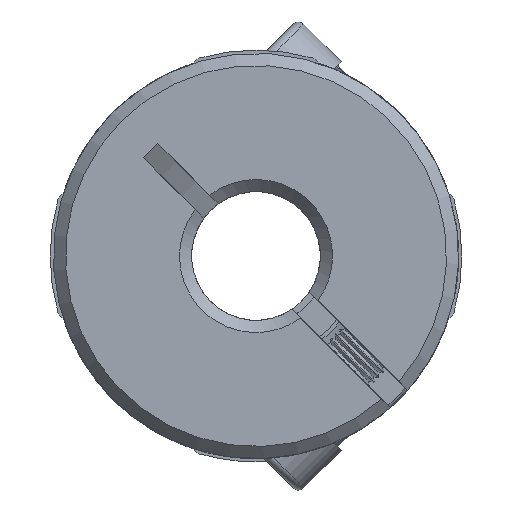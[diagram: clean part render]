
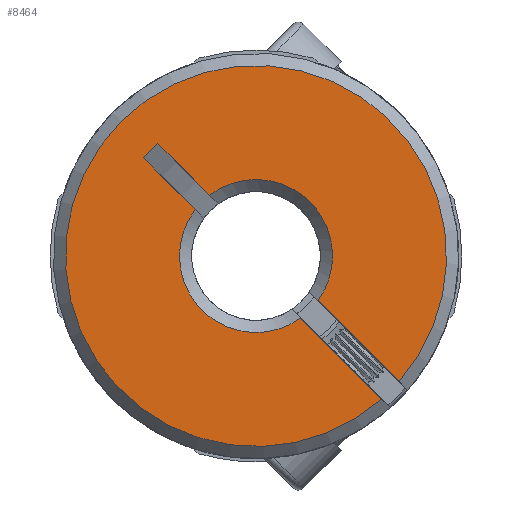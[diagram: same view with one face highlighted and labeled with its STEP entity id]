
A CAD part, front view. The second image highlights one B-rep face of the part: STEP entity #8464.
In plain terms, the highlighted planar face has unit normal (0, -1, 0).
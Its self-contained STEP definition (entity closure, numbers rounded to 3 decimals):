
#327 = CARTESIAN_POINT ( 'NONE',  ( 4.95, -12.6, -5.657 ) ) ;
#435 = VERTEX_POINT ( 'NONE', #6548 ) ;
#745 = EDGE_CURVE ( 'NONE', #7034, #2049, #12839, .T. ) ;
#939 = AXIS2_PLACEMENT_3D ( 'NONE', #11180, #7968, #7188 ) ;
#940 = DIRECTION ( 'NONE',  ( 0., 1., 0. ) ) ;
#997 = EDGE_CURVE ( 'NONE', #6815, #11123, #10616, .T. ) ;
#1060 = VERTEX_POINT ( 'NONE', #11073 ) ;
#1106 = CARTESIAN_POINT ( 'NONE',  ( 342.528, -12.6, 364.579 ) ) ;
#1355 = ORIENTED_EDGE ( 'NONE', *, *, #10277, .F. ) ;
#1568 = EDGE_CURVE ( 'NONE', #435, #11123, #6952, .T. ) ;
#1946 = VECTOR ( 'NONE', #5503, 1000. ) ;
#2049 = VERTEX_POINT ( 'NONE', #12454 ) ;
#2370 = CARTESIAN_POINT ( 'NONE',  ( 1.78, -12.6, -2.629 ) ) ;
#2399 = CARTESIAN_POINT ( 'NONE',  ( 3.06, -12.6, -2.211 ) ) ;
#2952 = CARTESIAN_POINT ( 'NONE',  ( 0., -12.6, 0. ) ) ;
#2982 = CARTESIAN_POINT ( 'NONE',  ( 2.629, -12.6, -1.78 ) ) ;
#3772 = ORIENTED_EDGE ( 'NONE', *, *, #12809, .T. ) ;
#3855 = AXIS2_PLACEMENT_3D ( 'NONE', #2952, #6085, #7220 ) ;
#4125 = CARTESIAN_POINT ( 'NONE',  ( -2.292, -12.6, 2.999 ) ) ;
#4141 = CARTESIAN_POINT ( 'NONE',  ( -2.999, -12.6, 2.292 ) ) ;
#4370 = AXIS2_PLACEMENT_3D ( 'NONE', #1106, #940, #10303 ) ;
#4687 = LINE ( 'NONE', #2370, #1946 ) ;
#5026 = LINE ( 'NONE', #10934, #9976 ) ;
#5236 = EDGE_CURVE ( 'NONE', #1060, #435, #7675, .T. ) ;
#5241 = VECTOR ( 'NONE', #11675, 1000. ) ;
#5503 = DIRECTION ( 'NONE',  ( 0.707, 0., -0.707 ) ) ;
#5780 = VERTEX_POINT ( 'NONE', #4125 ) ;
#5833 = EDGE_LOOP ( 'NONE', ( #10589, #3772, #6348, #7671, #1355, #11825, #8707, #10935 ) ) ;
#6085 = DIRECTION ( 'NONE',  ( 0., 1., 0. ) ) ;
#6106 = DIRECTION ( 'NONE',  ( 0.707, 0., -0.707 ) ) ;
#6245 = CARTESIAN_POINT ( 'NONE',  ( 0., -12.6, 0. ) ) ;
#6348 = ORIENTED_EDGE ( 'NONE', *, *, #9078, .F. ) ;
#6471 = DIRECTION ( 'NONE',  ( 0.707, 0., -0.707 ) ) ;
#6548 = CARTESIAN_POINT ( 'NONE',  ( -5.549, -12.6, 4.842 ) ) ;
#6815 = VERTEX_POINT ( 'NONE', #9811 ) ;
#6850 = PLANE ( 'NONE',  #4370 ) ;
#6952 = LINE ( 'NONE', #327, #7609 ) ;
#7034 = VERTEX_POINT ( 'NONE', #10083 ) ;
#7188 = DIRECTION ( 'NONE',  ( 0.707, 0., -0.707 ) ) ;
#7220 = DIRECTION ( 'NONE',  ( 0.707, 0., -0.707 ) ) ;
#7609 = VECTOR ( 'NONE', #6471, 1000. ) ;
#7671 = ORIENTED_EDGE ( 'NONE', *, *, #745, .T. ) ;
#7675 = LINE ( 'NONE', #9711, #5241 ) ;
#7939 = LINE ( 'NONE', #2982, #8093 ) ;
#7968 = DIRECTION ( 'NONE',  ( 0., 1., 0. ) ) ;
#8093 = VECTOR ( 'NONE', #11240, 1000. ) ;
#8464 = ADVANCED_FACE ( 'NONE', ( #10117 ), #6850, .F. ) ;
#8707 = ORIENTED_EDGE ( 'NONE', *, *, #1568, .F. ) ;
#8938 = CIRCLE ( 'NONE', #3855, 3.775 ) ;
#8965 = EDGE_CURVE ( 'NONE', #1060, #5780, #5026, .T. ) ;
#9078 = EDGE_CURVE ( 'NONE', #7034, #9368, #7939, .T. ) ;
#9368 = VERTEX_POINT ( 'NONE', #2399 ) ;
#9711 = CARTESIAN_POINT ( 'NONE',  ( -4.842, -12.6, 5.549 ) ) ;
#9811 = CARTESIAN_POINT ( 'NONE',  ( 2.211, -12.6, -3.06 ) ) ;
#9954 = DIRECTION ( 'NONE',  ( 0.707, 0., -0.707 ) ) ;
#9976 = VECTOR ( 'NONE', #9954, 1000. ) ;
#9997 = AXIS2_PLACEMENT_3D ( 'NONE', #6245, #10168, #6106 ) ;
#10083 = CARTESIAN_POINT ( 'NONE',  ( 7.058, -12.6, -6.209 ) ) ;
#10117 = FACE_OUTER_BOUND ( 'NONE', #5833, .T. ) ;
#10168 = DIRECTION ( 'NONE',  ( 0., -1., 0. ) ) ;
#10277 = EDGE_CURVE ( 'NONE', #6815, #2049, #4687, .T. ) ;
#10303 = DIRECTION ( 'NONE',  ( 0.707, 0., -0.707 ) ) ;
#10589 = ORIENTED_EDGE ( 'NONE', *, *, #8965, .T. ) ;
#10616 = CIRCLE ( 'NONE', #939, 3.775 ) ;
#10934 = CARTESIAN_POINT ( 'NONE',  ( 5.657, -12.6, -4.95 ) ) ;
#10935 = ORIENTED_EDGE ( 'NONE', *, *, #5236, .F. ) ;
#11073 = CARTESIAN_POINT ( 'NONE',  ( -4.842, -12.6, 5.549 ) ) ;
#11123 = VERTEX_POINT ( 'NONE', #4141 ) ;
#11180 = CARTESIAN_POINT ( 'NONE',  ( 0., -12.6, 0. ) ) ;
#11240 = DIRECTION ( 'NONE',  ( -0.707, 0., 0.707 ) ) ;
#11675 = DIRECTION ( 'NONE',  ( -0.707, 0., -0.707 ) ) ;
#11825 = ORIENTED_EDGE ( 'NONE', *, *, #997, .T. ) ;
#12454 = CARTESIAN_POINT ( 'NONE',  ( 6.209, -12.6, -7.058 ) ) ;
#12809 = EDGE_CURVE ( 'NONE', #5780, #9368, #8938, .T. ) ;
#12839 = CIRCLE ( 'NONE', #9997, 9.4 ) ;
